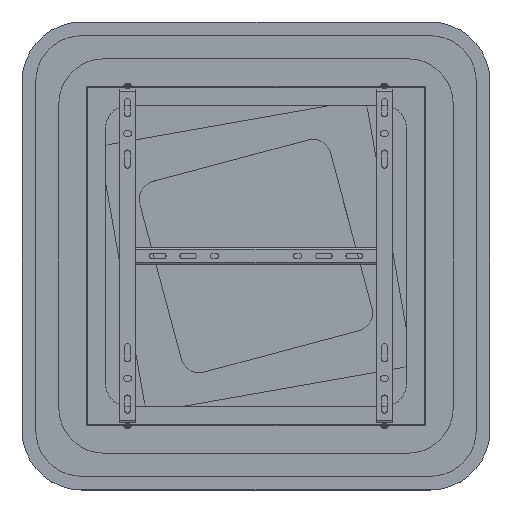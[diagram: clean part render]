
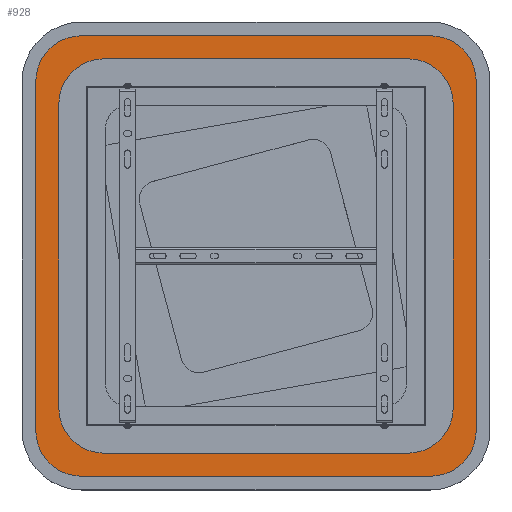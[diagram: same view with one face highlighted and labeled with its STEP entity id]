
A CAD part, top view. The second image highlights one B-rep face of the part: STEP entity #928.
In plain terms, the highlighted planar face has unit normal (0, 0, 1).
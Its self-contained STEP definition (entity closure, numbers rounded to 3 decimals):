
#331=FACE_BOUND('',#1997,.T.);
#332=FACE_BOUND('',#1998,.T.);
#575=PLANE('',#9160);
#928=ADVANCED_FACE('',(#331,#332),#575,.F.);
#1997=EDGE_LOOP('',(#5061,#5062,#5063,#5064,#5065,#5066,#5067,#5068));
#1998=EDGE_LOOP('',(#5069,#5070,#5071,#5072,#5073,#5074,#5075,#5076));
#2717=LINE('',#13133,#3489);
#2722=LINE('',#13148,#3494);
#2726=LINE('',#13160,#3498);
#2730=LINE('',#13172,#3502);
#2737=LINE('',#13198,#3509);
#2738=LINE('',#13203,#3510);
#2739=LINE('',#13207,#3511);
#2740=LINE('',#13211,#3512);
#3489=VECTOR('',#10743,1.);
#3494=VECTOR('',#10756,1.);
#3498=VECTOR('',#10768,1.);
#3502=VECTOR('',#10780,1.);
#3509=VECTOR('',#10805,1.);
#3510=VECTOR('',#10808,1.);
#3511=VECTOR('',#10811,1.);
#3512=VECTOR('',#10814,1.);
#5061=ORIENTED_EDGE('',*,*,#7765,.T.);
#5062=ORIENTED_EDGE('',*,*,#7766,.T.);
#5063=ORIENTED_EDGE('',*,*,#7767,.T.);
#5064=ORIENTED_EDGE('',*,*,#7768,.T.);
#5065=ORIENTED_EDGE('',*,*,#7769,.T.);
#5066=ORIENTED_EDGE('',*,*,#7770,.T.);
#5067=ORIENTED_EDGE('',*,*,#7771,.T.);
#5068=ORIENTED_EDGE('',*,*,#7772,.T.);
#5069=ORIENTED_EDGE('',*,*,#7733,.F.);
#5070=ORIENTED_EDGE('',*,*,#7737,.F.);
#5071=ORIENTED_EDGE('',*,*,#7740,.F.);
#5072=ORIENTED_EDGE('',*,*,#7743,.F.);
#5073=ORIENTED_EDGE('',*,*,#7746,.F.);
#5074=ORIENTED_EDGE('',*,*,#7749,.F.);
#5075=ORIENTED_EDGE('',*,*,#7752,.F.);
#5076=ORIENTED_EDGE('',*,*,#7755,.F.);
#6713=VERTEX_POINT('',#13134);
#6714=VERTEX_POINT('',#13135);
#6717=VERTEX_POINT('',#13143);
#6719=VERTEX_POINT('',#13149);
#6721=VERTEX_POINT('',#13155);
#6723=VERTEX_POINT('',#13161);
#6725=VERTEX_POINT('',#13167);
#6727=VERTEX_POINT('',#13173);
#6737=VERTEX_POINT('',#13199);
#6738=VERTEX_POINT('',#13200);
#6739=VERTEX_POINT('',#13202);
#6740=VERTEX_POINT('',#13204);
#6741=VERTEX_POINT('',#13206);
#6742=VERTEX_POINT('',#13208);
#6743=VERTEX_POINT('',#13210);
#6744=VERTEX_POINT('',#13212);
#7733=EDGE_CURVE('',#6713,#6714,#2717,.T.);
#7737=EDGE_CURVE('',#6717,#6713,#8561,.T.);
#7740=EDGE_CURVE('',#6719,#6717,#2722,.T.);
#7743=EDGE_CURVE('',#6721,#6719,#8563,.T.);
#7746=EDGE_CURVE('',#6723,#6721,#2726,.T.);
#7749=EDGE_CURVE('',#6725,#6723,#8565,.T.);
#7752=EDGE_CURVE('',#6727,#6725,#2730,.T.);
#7755=EDGE_CURVE('',#6714,#6727,#8567,.T.);
#7765=EDGE_CURVE('',#6737,#6738,#2737,.T.);
#7766=EDGE_CURVE('',#6738,#6739,#8573,.T.);
#7767=EDGE_CURVE('',#6739,#6740,#2738,.T.);
#7768=EDGE_CURVE('',#6740,#6741,#8574,.T.);
#7769=EDGE_CURVE('',#6741,#6742,#2739,.T.);
#7770=EDGE_CURVE('',#6742,#6743,#8575,.T.);
#7771=EDGE_CURVE('',#6743,#6744,#2740,.T.);
#7772=EDGE_CURVE('',#6744,#6737,#8576,.T.);
#8561=CIRCLE('',#9136,50.);
#8563=CIRCLE('',#9140,50.);
#8565=CIRCLE('',#9144,50.);
#8567=CIRCLE('',#9148,50.);
#8573=CIRCLE('',#9156,50.);
#8574=CIRCLE('',#9157,50.);
#8575=CIRCLE('',#9158,50.);
#8576=CIRCLE('',#9159,50.);
#9136=AXIS2_PLACEMENT_3D('',#13142,#10749,#10750);
#9140=AXIS2_PLACEMENT_3D('',#13154,#10761,#10762);
#9144=AXIS2_PLACEMENT_3D('',#13166,#10773,#10774);
#9148=AXIS2_PLACEMENT_3D('',#13178,#10785,#10786);
#9156=AXIS2_PLACEMENT_3D('',#13201,#10806,#10807);
#9157=AXIS2_PLACEMENT_3D('',#13205,#10809,#10810);
#9158=AXIS2_PLACEMENT_3D('',#13209,#10812,#10813);
#9159=AXIS2_PLACEMENT_3D('',#13213,#10815,#10816);
#9160=AXIS2_PLACEMENT_3D('',#13214,#10817,#10818);
#10743=DIRECTION('',(0.,-1.,0.));
#10749=DIRECTION('',(0.,0.,-1.));
#10750=DIRECTION('',(-1.,0.,0.));
#10756=DIRECTION('',(1.,0.,0.));
#10761=DIRECTION('',(0.,0.,-1.));
#10762=DIRECTION('',(-1.,0.,0.));
#10768=DIRECTION('',(0.,1.,0.));
#10773=DIRECTION('',(0.,0.,-1.));
#10774=DIRECTION('',(-1.,0.,0.));
#10780=DIRECTION('',(-1.,0.,0.));
#10785=DIRECTION('',(0.,0.,-1.));
#10786=DIRECTION('',(-1.,0.,0.));
#10805=DIRECTION('',(1.,0.,0.));
#10806=DIRECTION('',(0.,0.,-1.));
#10807=DIRECTION('',(-1.,0.,0.));
#10808=DIRECTION('',(0.,-1.,0.));
#10809=DIRECTION('',(0.,0.,-1.));
#10810=DIRECTION('',(-1.,0.,0.));
#10811=DIRECTION('',(-1.,0.,0.));
#10812=DIRECTION('',(0.,0.,-1.));
#10813=DIRECTION('',(-1.,0.,0.));
#10814=DIRECTION('',(0.,1.,0.));
#10815=DIRECTION('',(0.,0.,-1.));
#10816=DIRECTION('',(-1.,0.,0.));
#10817=DIRECTION('',(0.,0.,-1.));
#10818=DIRECTION('',(1.,0.,0.));
#13133=CARTESIAN_POINT('',(3450.043,1499.597,-8.5));
#13134=CARTESIAN_POINT('',(3450.043,1879.597,-8.5));
#13135=CARTESIAN_POINT('',(3450.043,1499.597,-8.5));
#13142=CARTESIAN_POINT('',(3400.043,1879.597,-8.5));
#13143=CARTESIAN_POINT('',(3400.043,1929.597,-8.5));
#13148=CARTESIAN_POINT('',(3400.043,1929.597,-8.5));
#13149=CARTESIAN_POINT('',(3020.043,1929.597,-8.5));
#13154=CARTESIAN_POINT('',(3020.043,1879.597,-8.5));
#13155=CARTESIAN_POINT('',(2970.043,1879.597,-8.5));
#13160=CARTESIAN_POINT('',(2970.043,1879.597,-8.5));
#13161=CARTESIAN_POINT('',(2970.043,1499.597,-8.5));
#13166=CARTESIAN_POINT('',(3020.043,1499.597,-8.5));
#13167=CARTESIAN_POINT('',(3020.043,1449.597,-8.5));
#13172=CARTESIAN_POINT('',(3020.043,1449.597,-8.5));
#13173=CARTESIAN_POINT('',(3400.043,1449.597,-8.5));
#13178=CARTESIAN_POINT('',(3400.043,1499.597,-8.5));
#13198=CARTESIAN_POINT('',(3400.043,1904.597,-8.5));
#13199=CARTESIAN_POINT('',(3045.043,1904.597,-8.5));
#13200=CARTESIAN_POINT('',(3375.043,1904.597,-8.5));
#13201=CARTESIAN_POINT('',(3375.043,1854.597,-8.5));
#13202=CARTESIAN_POINT('',(3425.043,1854.597,-8.5));
#13203=CARTESIAN_POINT('',(3425.043,1879.597,-8.5));
#13204=CARTESIAN_POINT('',(3425.043,1524.597,-8.5));
#13205=CARTESIAN_POINT('',(3375.043,1524.597,-8.5));
#13206=CARTESIAN_POINT('',(3375.043,1474.597,-8.5));
#13207=CARTESIAN_POINT('',(3400.043,1474.597,-8.5));
#13208=CARTESIAN_POINT('',(3045.043,1474.597,-8.5));
#13209=CARTESIAN_POINT('',(3045.043,1524.597,-8.5));
#13210=CARTESIAN_POINT('',(2995.043,1524.597,-8.5));
#13211=CARTESIAN_POINT('',(2995.043,1879.597,-8.5));
#13212=CARTESIAN_POINT('',(2995.043,1854.597,-8.5));
#13213=CARTESIAN_POINT('',(3045.043,1854.597,-8.5));
#13214=CARTESIAN_POINT('',(3400.043,1879.597,-8.5));
